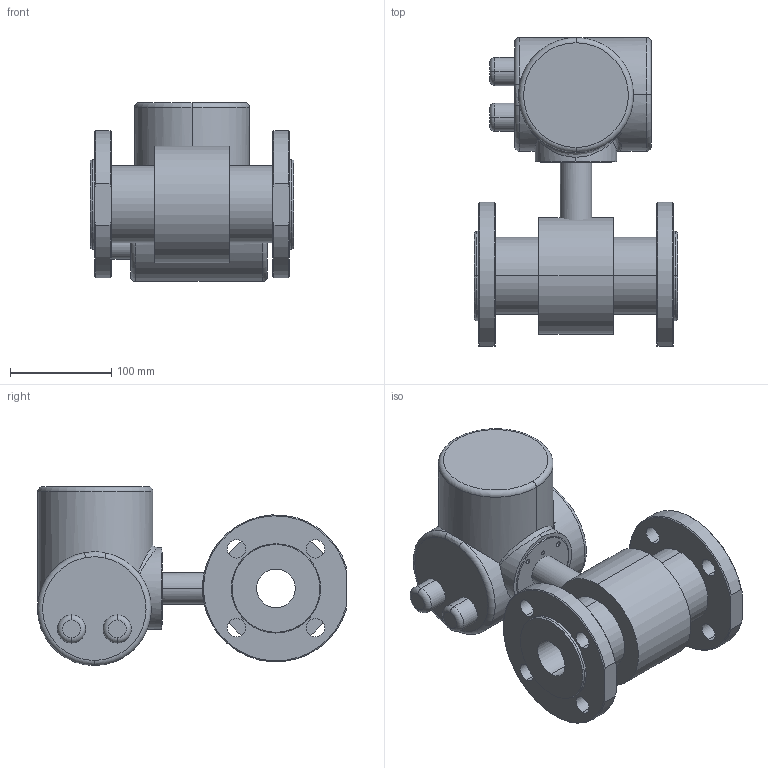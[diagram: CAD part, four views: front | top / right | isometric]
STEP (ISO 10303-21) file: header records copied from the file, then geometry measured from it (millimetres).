
FILE_DESCRIPTION (( 'STEP AP203' ), '1' );
FILE_NAME ('Ðàñõîäîìåð-ñ÷åò÷èê ýëåêòðîìàãíèòíûé ÏÈÒÅÐÔËÎÓ Ò3 - 40 Ex.STEP', '2022-06-24T07:57:50', ( '' ), ( '' ), 'SwSTEP 2.0', 'SolidWorks 2016', '' );
FILE_SCHEMA (( 'CONFIG_CONTROL_DESIGN' ));
Length unit declared in the file: millimetre
Products named in the file (1): Ðàñõîäîìåð-ñ÷åò÷èê ýëåêòðîìàãíèòíûé ÏÈÒÅÐÔËÎÓ Ò3 - 40 Ex
Bounding box: 200.6 x 304.5 x 176.4 mm (x, y, z)
Volume: 3621878.3 mm3; surface area: 285649.3 mm2
Topology: 5 solids, 5 shells, 235 faces, 579 edges, 364 vertices
Faces by surface type: cylinder 105, cone 66, plane 43, torus 16, bspline 4, sphere 1
Entity records: 9925 total; most frequent: CARTESIAN_POINT 4245, DIRECTION 1206, ORIENTED_EDGE 1150, EDGE_CURVE 575, AXIS2_PLACEMENT_3D 515, VERTEX_POINT 364, CIRCLE 283, EDGE_LOOP 281
